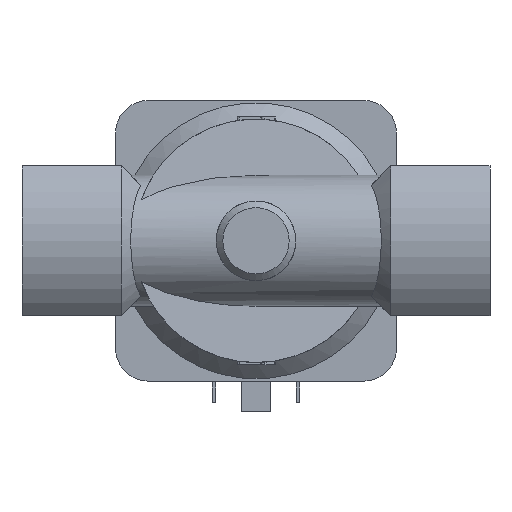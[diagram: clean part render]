
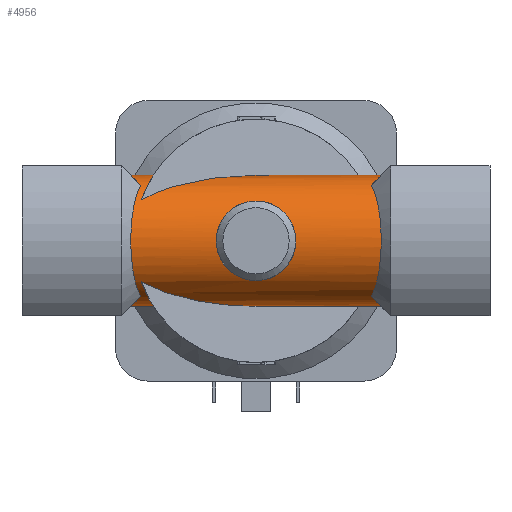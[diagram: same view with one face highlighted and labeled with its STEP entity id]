
A CAD part, front view. The second image highlights one B-rep face of the part: STEP entity #4956.
In plain terms, the highlighted cylindrical face has radius 14 mm (diameter 28 mm), a partial arc.
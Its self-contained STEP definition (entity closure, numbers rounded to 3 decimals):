
#464=LINE('',#8021,#898);
#465=LINE('',#8033,#899);
#466=LINE('',#8049,#900);
#467=LINE('',#8060,#901);
#898=VECTOR('',#6498,1000.);
#899=VECTOR('',#6501,1000.);
#900=VECTOR('',#6506,1000.);
#901=VECTOR('',#6509,1000.);
#1332=B_SPLINE_CURVE_WITH_KNOTS('',3,(#8009,#8010,#8011,#8012,#8013,#8014,
#8015,#8016,#8017),.UNSPECIFIED.,.F.,.F.,(4,1,1,1,1,1,4),(0.,
0.004,0.008,0.015,0.022,
0.026,0.029),.UNSPECIFIED.);
#1333=B_SPLINE_CURVE_WITH_KNOTS('',3,(#8023,#8024,#8025,#8026,#8027,#8028,
#8029),.UNSPECIFIED.,.F.,.F.,(4,1,1,1,4),(0.,0.003,
0.006,0.01,0.013),
 .UNSPECIFIED.);
#1334=B_SPLINE_CURVE_WITH_KNOTS('',3,(#8037,#8038,#8039,#8040,#8041,#8042,
#8043,#8044,#8045),.UNSPECIFIED.,.F.,.F.,(4,1,1,1,1,1,4),(0.,
0.004,0.008,0.015,0.022,
0.026,0.029),.UNSPECIFIED.);
#1335=B_SPLINE_CURVE_WITH_KNOTS('',3,(#8053,#8054,#8055,#8056,#8057,#8058),
 .UNSPECIFIED.,.F.,.F.,(4,1,1,4),(0.001,0.008,
0.011,0.014),.UNSPECIFIED.);
#1336=B_SPLINE_CURVE_WITH_KNOTS('',3,(#8061,#8062,#8063,#8064,#8065,#8066,
#8067,#8068,#8069,#8070,#8071,#8072,#8073,#8074,#8075,#8076,#8077,#8078,
#8079,#8080),.UNSPECIFIED.,.T.,.F.,(1,1,1,1,1,1,1,1,1,1,1,1,1,1,1,1,1,1,
1,1,1,1,1,1),(-0.007,-0.003,-0.002,
0.,0.003,0.007,0.01,0.014,
0.017,0.02,0.024,0.027,
0.031,0.034,0.037,0.041,
0.044,0.048,0.051,0.053,
0.054,0.058,0.061,0.065),
 .UNSPECIFIED.);
#1395=ORIENTED_EDGE('',*,*,#2839,.F.);
#1396=ORIENTED_EDGE('',*,*,#2840,.F.);
#1397=ORIENTED_EDGE('',*,*,#2841,.F.);
#1398=ORIENTED_EDGE('',*,*,#2842,.F.);
#1399=ORIENTED_EDGE('',*,*,#2843,.T.);
#1400=ORIENTED_EDGE('',*,*,#2844,.F.);
#1401=ORIENTED_EDGE('',*,*,#2845,.F.);
#1402=ORIENTED_EDGE('',*,*,#2846,.T.);
#1403=ORIENTED_EDGE('',*,*,#2847,.T.);
#1404=ORIENTED_EDGE('',*,*,#2848,.T.);
#1405=ORIENTED_EDGE('',*,*,#2849,.F.);
#1406=ORIENTED_EDGE('',*,*,#2850,.F.);
#1407=ORIENTED_EDGE('',*,*,#2851,.T.);
#1408=ORIENTED_EDGE('',*,*,#2852,.F.);
#1409=ORIENTED_EDGE('',*,*,#2853,.F.);
#2839=EDGE_CURVE('',#3561,#3562,#4059,.F.);
#2840=EDGE_CURVE('',#3563,#3561,#1332,.T.);
#2841=EDGE_CURVE('',#3564,#3563,#4060,.F.);
#2842=EDGE_CURVE('',#3565,#3564,#464,.T.);
#2843=EDGE_CURVE('',#3565,#3566,#1333,.T.);
#2844=EDGE_CURVE('',#3567,#3566,#4061,.F.);
#2845=EDGE_CURVE('',#3568,#3567,#465,.T.);
#2846=EDGE_CURVE('',#3568,#3569,#4062,.T.);
#2847=EDGE_CURVE('',#3569,#3570,#1334,.T.);
#2848=EDGE_CURVE('',#3570,#3571,#4063,.T.);
#2849=EDGE_CURVE('',#3572,#3571,#466,.T.);
#2850=EDGE_CURVE('',#3573,#3572,#4064,.F.);
#2851=EDGE_CURVE('',#3573,#3574,#1335,.T.);
#2852=EDGE_CURVE('',#3562,#3574,#467,.T.);
#2853=EDGE_CURVE('',#3575,#3575,#1336,.T.);
#3561=VERTEX_POINT('',#8007);
#3562=VERTEX_POINT('',#8008);
#3563=VERTEX_POINT('',#8018);
#3564=VERTEX_POINT('',#8020);
#3565=VERTEX_POINT('',#8022);
#3566=VERTEX_POINT('',#8030);
#3567=VERTEX_POINT('',#8032);
#3568=VERTEX_POINT('',#8034);
#3569=VERTEX_POINT('',#8036);
#3570=VERTEX_POINT('',#8046);
#3571=VERTEX_POINT('',#8048);
#3572=VERTEX_POINT('',#8050);
#3573=VERTEX_POINT('',#8052);
#3574=VERTEX_POINT('',#8059);
#3575=VERTEX_POINT('',#8081);
#4059=ELLIPSE('',#5952,19.799,14.);
#4060=ELLIPSE('',#5953,19.799,14.);
#4061=ELLIPSE('',#5954,34.42,14.);
#4062=ELLIPSE('',#5955,19.799,14.);
#4063=ELLIPSE('',#5956,19.799,14.);
#4064=ELLIPSE('',#5957,34.42,14.);
#4083=EDGE_LOOP('',(#1395,#1396,#1397,#1398,#1399,#1400,#1401,#1402,#1403,
#1404,#1405,#1406,#1407,#1408));
#4084=EDGE_LOOP('',(#1409));
#4477=FACE_BOUND('',#4083,.T.);
#4478=FACE_BOUND('',#4084,.T.);
#4871=CYLINDRICAL_SURFACE('',#5951,14.);
#4956=ADVANCED_FACE('',(#4477,#4478),#4871,.T.);
#5951=AXIS2_PLACEMENT_3D('',#8005,#6492,#6493);
#5952=AXIS2_PLACEMENT_3D('',#8006,#6494,#6495);
#5953=AXIS2_PLACEMENT_3D('',#8019,#6496,#6497);
#5954=AXIS2_PLACEMENT_3D('',#8031,#6499,#6500);
#5955=AXIS2_PLACEMENT_3D('',#8035,#6502,#6503);
#5956=AXIS2_PLACEMENT_3D('',#8047,#6504,#6505);
#5957=AXIS2_PLACEMENT_3D('',#8051,#6507,#6508);
#6492=DIRECTION('',(-1.,0.,0.));
#6493=DIRECTION('',(0.,0.,1.));
#6494=DIRECTION('',(0.707,0.,0.707));
#6495=DIRECTION('',(-0.707,0.,0.707));
#6496=DIRECTION('',(0.707,0.,-0.707));
#6497=DIRECTION('',(-0.707,0.,-0.707));
#6498=DIRECTION('',(-1.,0.,0.));
#6499=DIRECTION('',(0.407,-0.914,0.));
#6500=DIRECTION('',(-0.914,-0.407,0.));
#6501=DIRECTION('',(-1.,0.,0.));
#6502=DIRECTION('',(-0.707,0.,-0.707));
#6503=DIRECTION('',(-0.707,0.,0.707));
#6504=DIRECTION('',(-0.707,0.,0.707));
#6505=DIRECTION('',(-0.707,0.,-0.707));
#6506=DIRECTION('',(1.,0.,0.));
#6507=DIRECTION('',(0.407,-0.914,0.));
#6508=DIRECTION('',(-0.914,-0.407,0.));
#6509=DIRECTION('',(1.,0.,0.));
#8005=CARTESIAN_POINT('',(30.,0.,0.));
#8006=CARTESIAN_POINT('',(-12.75,0.,0.));
#8007=CARTESIAN_POINT('',(-24.652,-7.372,11.902));
#8008=CARTESIAN_POINT('',(-26.75,0.,14.));
#8009=CARTESIAN_POINT('',(-24.652,-7.372,-11.902));
#8010=CARTESIAN_POINT('',(-24.982,-8.359,-11.291));
#8011=CARTESIAN_POINT('',(-25.57,-10.165,-9.838));
#8012=CARTESIAN_POINT('',(-26.466,-13.041,-6.012));
#8013=CARTESIAN_POINT('',(-26.938,-14.636,-0.018));
#8014=CARTESIAN_POINT('',(-26.47,-13.052,5.986));
#8015=CARTESIAN_POINT('',(-25.577,-10.187,9.817));
#8016=CARTESIAN_POINT('',(-24.984,-8.364,11.288));
#8017=CARTESIAN_POINT('',(-24.652,-7.372,11.902));
#8018=CARTESIAN_POINT('',(-24.652,-7.372,-11.902));
#8019=CARTESIAN_POINT('',(-12.75,0.,0.));
#8020=CARTESIAN_POINT('',(-26.75,0.,-14.));
#8021=CARTESIAN_POINT('',(30.,0.,-14.));
#8022=CARTESIAN_POINT('',(-21.909,0.,-14.));
#8023=CARTESIAN_POINT('',(-21.909,0.,-14.));
#8024=CARTESIAN_POINT('',(-21.909,-1.077,-14.));
#8025=CARTESIAN_POINT('',(-22.068,-3.182,-13.756));
#8026=CARTESIAN_POINT('',(-22.708,-6.173,-12.696));
#8027=CARTESIAN_POINT('',(-23.575,-8.799,-11.032));
#8028=CARTESIAN_POINT('',(-24.18,-10.247,-9.595));
#8029=CARTESIAN_POINT('',(-24.468,-10.894,-8.793));
#8030=CARTESIAN_POINT('',(-24.468,-10.894,-8.793));
#8031=CARTESIAN_POINT('',(0.,0.,0.));
#8032=CARTESIAN_POINT('',(0.,0.,-14.));
#8033=CARTESIAN_POINT('',(30.,0.,-14.));
#8034=CARTESIAN_POINT('',(26.75,0.,-14.));
#8035=CARTESIAN_POINT('',(12.75,0.,0.));
#8036=CARTESIAN_POINT('',(24.652,-7.372,-11.902));
#8037=CARTESIAN_POINT('',(24.652,-7.372,-11.902));
#8038=CARTESIAN_POINT('',(24.982,-8.359,-11.291));
#8039=CARTESIAN_POINT('',(25.57,-10.165,-9.838));
#8040=CARTESIAN_POINT('',(26.466,-13.041,-6.012));
#8041=CARTESIAN_POINT('',(26.938,-14.636,-0.018));
#8042=CARTESIAN_POINT('',(26.47,-13.052,5.986));
#8043=CARTESIAN_POINT('',(25.577,-10.187,9.817));
#8044=CARTESIAN_POINT('',(24.984,-8.364,11.288));
#8045=CARTESIAN_POINT('',(24.652,-7.372,11.902));
#8046=CARTESIAN_POINT('',(24.652,-7.372,11.902));
#8047=CARTESIAN_POINT('',(12.75,0.,0.));
#8048=CARTESIAN_POINT('',(26.75,0.,14.));
#8049=CARTESIAN_POINT('',(-30.,0.,14.));
#8050=CARTESIAN_POINT('',(0.,0.,14.));
#8051=CARTESIAN_POINT('',(0.,0.,0.));
#8052=CARTESIAN_POINT('',(-24.468,-10.894,8.793));
#8053=CARTESIAN_POINT('',(-24.468,-10.894,8.793));
#8054=CARTESIAN_POINT('',(-23.895,-9.607,10.387));
#8055=CARTESIAN_POINT('',(-22.925,-7.177,12.336));
#8056=CARTESIAN_POINT('',(-22.069,-3.192,13.754));
#8057=CARTESIAN_POINT('',(-21.909,-1.079,14.));
#8058=CARTESIAN_POINT('',(-21.909,0.,14.));
#8059=CARTESIAN_POINT('',(-21.909,0.,14.));
#8060=CARTESIAN_POINT('',(-30.,0.,14.));
#8061=CARTESIAN_POINT('',(-1.727,-11.216,-8.382));
#8062=CARTESIAN_POINT('',(0.581,-11.031,-8.619));
#8063=CARTESIAN_POINT('',(3.406,-11.506,-8.024));
#8064=CARTESIAN_POINT('',(6.135,-12.653,-6.175));
#8065=CARTESIAN_POINT('',(8.012,-13.697,-3.443));
#8066=CARTESIAN_POINT('',(8.738,-14.148,-0.039));
#8067=CARTESIAN_POINT('',(8.036,-13.711,3.399));
#8068=CARTESIAN_POINT('',(6.155,-12.664,6.153));
#8069=CARTESIAN_POINT('',(3.451,-11.52,8.006));
#8070=CARTESIAN_POINT('',(0.035,-10.932,8.74));
#8071=CARTESIAN_POINT('',(-3.389,-11.499,8.035));
#8072=CARTESIAN_POINT('',(-6.124,-12.648,6.186));
#8073=CARTESIAN_POINT('',(-8.011,-13.696,3.45));
#8074=CARTESIAN_POINT('',(-8.739,-14.149,0.033));
#8075=CARTESIAN_POINT('',(-8.034,-13.71,-3.403));
#8076=CARTESIAN_POINT('',(-6.15,-12.659,-6.162));
#8077=CARTESIAN_POINT('',(-3.881,-11.708,-7.704));
#8078=CARTESIAN_POINT('',(-1.727,-11.216,-8.382));
#8079=CARTESIAN_POINT('',(0.581,-11.031,-8.619));
#8080=CARTESIAN_POINT('',(3.406,-11.506,-8.024));
#8081=CARTESIAN_POINT('',(0.,-11.124,-8.5));
